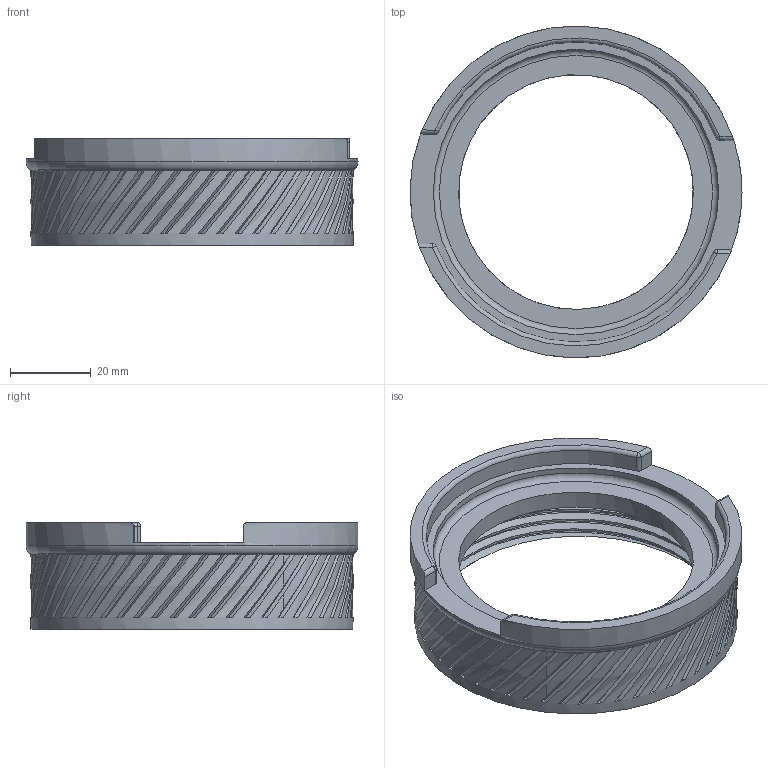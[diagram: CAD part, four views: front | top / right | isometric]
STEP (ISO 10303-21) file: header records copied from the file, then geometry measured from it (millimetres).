
FILE_DESCRIPTION(/* description */ ('STEP AP242','CAx-IF Rec.Pracs.---Representation and Presentation of Product Manufacturing Information (PMI)---4.0---2014-10-13','CAx-IF Rec.Pracs.---3D Tessellated Geometry---0.4---2014-09-14','2;1'),/* implementation_level */ '2;1');
FILE_NAME(/* name */ '6469268dcac4670533c2121a',/* time_stamp */ '2023-05-20T19:59:09Z',/* author */ (''),/* organization */ (''),/* preprocessor_version */ 'ST-DEVELOPER v19.4',/* originating_system */ ' ',/* authorisation */ ' ');
FILE_SCHEMA (('AP242_MANAGED_MODEL_BASED_3D_ENGINEERING_MIM_LF { 1 0 10303 442 1 1 4 }'));
Length unit declared in the file: metre
Products named in the file (1): Base 26mm NoMagnet Lug
Bounding box: 82 x 82 x 26.4 mm (x, y, z)
Volume: 32422.5 mm3; surface area: 18422.9 mm2
Topology: 1 solids, 1 shells, 307 faces, 787 edges, 482 vertices
Faces by surface type: bspline 152, plane 124, cylinder 18, cone 5, torus 4, sphere 4
Full cylindrical faces by diameter (mm): 58 x1, 70.5 x1, 79.6 x1, 82 x1
Entity records: 15292 total; most frequent: CARTESIAN_POINT 9581, ORIENTED_EDGE 1520, DIRECTION 777, EDGE_CURVE 760, VERTEX_POINT 470, AXIS2_PLACEMENT_3D 353, B_SPLINE_CURVE_WITH_KNOTS 327, EDGE_LOOP 318
